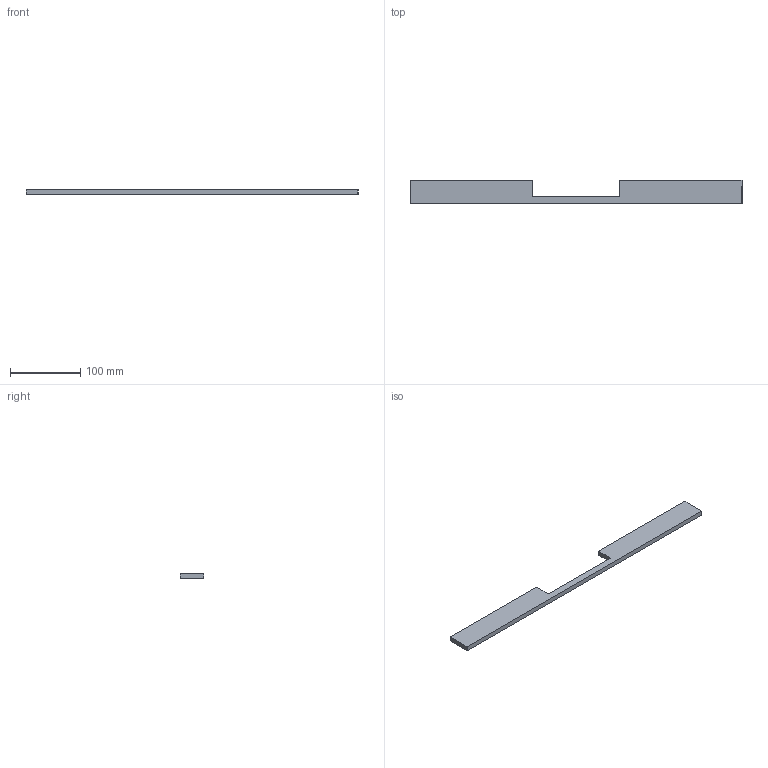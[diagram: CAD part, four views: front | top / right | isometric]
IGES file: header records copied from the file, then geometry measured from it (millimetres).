
Start section: Data from Parasolid IGES Translator 20.0.26, Copyright(c) 2006 Siemens P LM Software. All Rights Reserved.
Global section: file name: 115017.igs; native system: By Siemens PLM Incorporated; preprocessor: XPlus GENERIC/IGES 20.0.26; author: Noname; organization: Noname; date: 20230605.152930; units: millimetre
Bounding box: 472 x 34 x 7 mm (x, y, z)
Surface area: 34018.7 mm2 (no closed solid volume)
Topology: 0 solids, 0 shells, 18 faces, 72 edges, 66 vertices
Faces by surface type: extrusion 14, revolution 4
